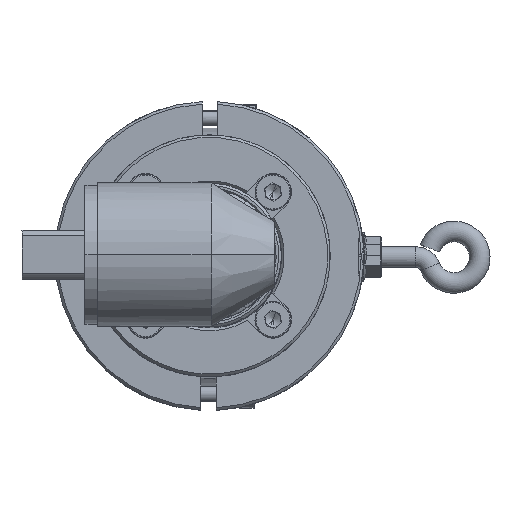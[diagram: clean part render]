
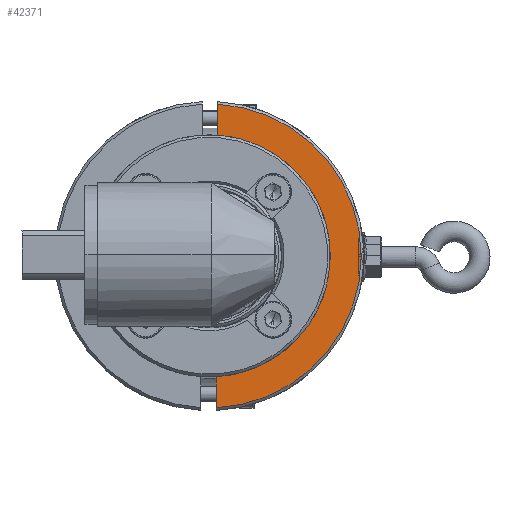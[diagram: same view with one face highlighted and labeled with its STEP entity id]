
A CAD part, top view. The second image highlights one B-rep face of the part: STEP entity #42371.
In plain terms, the highlighted planar face has unit normal (0, 0, 1).
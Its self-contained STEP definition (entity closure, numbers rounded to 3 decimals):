
#1685 = EDGE_CURVE ( 'NONE', #30818, #12547, #2224, .T. ) ;
#2224 = CIRCLE ( 'NONE', #13015, 23.5 ) ;
#3168 = DIRECTION ( 'NONE',  ( 0.005, 1., 0. ) ) ;
#4146 = ORIENTED_EDGE ( 'NONE', *, *, #23025, .F. ) ;
#4269 = VERTEX_POINT ( 'NONE', #54584 ) ;
#4462 = CARTESIAN_POINT ( 'NONE',  ( 2.267, 23.444, -4.6 ) ) ;
#8031 = VECTOR ( 'NONE', #3168, 1000. ) ;
#9056 = CARTESIAN_POINT ( 'NONE',  ( 1.999, -29.97, -4.6 ) ) ;
#10301 = LINE ( 'NONE', #4462, #21989 ) ;
#10447 = ORIENTED_EDGE ( 'NONE', *, *, #37473, .T. ) ;
#10519 = EDGE_LOOP ( 'NONE', ( #4146, #10447, #48300, #33756 ) ) ;
#12547 = VERTEX_POINT ( 'NONE', #47727 ) ;
#13015 = AXIS2_PLACEMENT_3D ( 'NONE', #31081, #19460, #13630 ) ;
#13630 = DIRECTION ( 'NONE',  ( 0.005, 1., 0. ) ) ;
#14783 = DIRECTION ( 'NONE',  ( 0.005, 1., 0. ) ) ;
#14893 = LINE ( 'NONE', #9056, #8031 ) ;
#17758 = CARTESIAN_POINT ( 'NONE',  ( 2.032, -23.459, -4.6 ) ) ;
#18756 = FACE_OUTER_BOUND ( 'NONE', #10519, .T. ) ;
#19460 = DIRECTION ( 'NONE',  ( 0., 0., 1. ) ) ;
#20211 = AXIS2_PLACEMENT_3D ( 'NONE', #26439, #20644, #14783 ) ;
#20640 = VERTEX_POINT ( 'NONE', #24751 ) ;
#20644 = DIRECTION ( 'NONE',  ( 0., 0., -1. ) ) ;
#21989 = VECTOR ( 'NONE', #55654, 1000. ) ;
#23025 = EDGE_CURVE ( 'NONE', #20640, #30818, #14893, .T. ) ;
#23107 = CIRCLE ( 'NONE', #49043, 29.5 ) ;
#24751 = CARTESIAN_POINT ( 'NONE',  ( 2.002, -29.469, -4.6 ) ) ;
#26439 = CARTESIAN_POINT ( 'NONE',  ( 0.65, 0., -4.6 ) ) ;
#29919 = EDGE_CURVE ( 'NONE', #12547, #4269, #10301, .T. ) ;
#30818 = VERTEX_POINT ( 'NONE', #17758 ) ;
#31081 = CARTESIAN_POINT ( 'NONE',  ( 0.65, 0., -4.6 ) ) ;
#32267 = PLANE ( 'NONE',  #20211 ) ;
#33756 = ORIENTED_EDGE ( 'NONE', *, *, #1685, .F. ) ;
#34378 = DIRECTION ( 'NONE',  ( 0.005, 1., 0. ) ) ;
#37473 = EDGE_CURVE ( 'NONE', #20640, #4269, #23107, .T. ) ;
#40165 = DIRECTION ( 'NONE',  ( 0., 0., 1. ) ) ;
#42371 = ADVANCED_FACE ( 'NONE', ( #18756 ), #32267, .F. ) ;
#46038 = CARTESIAN_POINT ( 'NONE',  ( 0.65, 0., -4.6 ) ) ;
#47727 = CARTESIAN_POINT ( 'NONE',  ( 2.267, 23.444, -4.6 ) ) ;
#48300 = ORIENTED_EDGE ( 'NONE', *, *, #29919, .F. ) ;
#49043 = AXIS2_PLACEMENT_3D ( 'NONE', #46038, #40165, #34378 ) ;
#54584 = CARTESIAN_POINT ( 'NONE',  ( 2.298, 29.454, -4.6 ) ) ;
#55654 = DIRECTION ( 'NONE',  ( 0.005, 1., 0. ) ) ;
